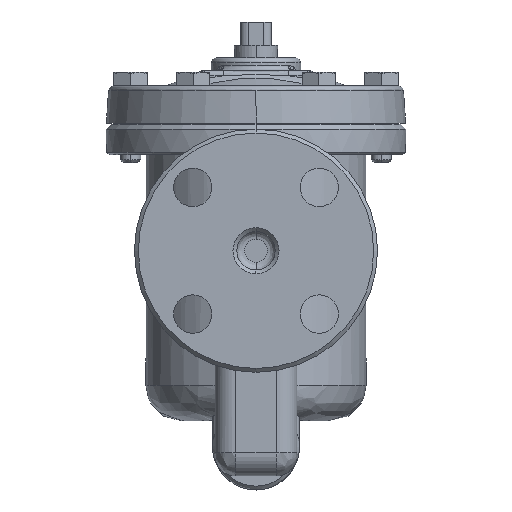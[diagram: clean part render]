
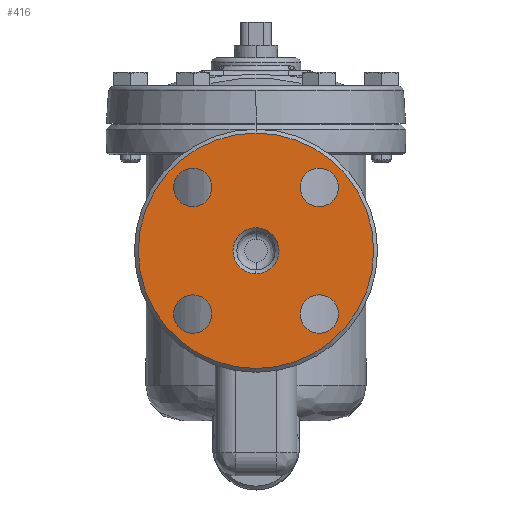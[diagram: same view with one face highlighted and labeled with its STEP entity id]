
A CAD part, left-side view. The second image highlights one B-rep face of the part: STEP entity #416.
In plain terms, the highlighted planar face has unit normal (-1, 0, 0).
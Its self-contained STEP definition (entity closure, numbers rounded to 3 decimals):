
#416=ADVANCED_FACE('',(#2297,#2298,#2299,#2300,#2301,#2302),#2296,.F.);
#2296=PLANE('',#5579);
#2297=FACE_OUTER_BOUND('',#5580,.T.);
#2298=FACE_BOUND('',#5581,.T.);
#2299=FACE_BOUND('',#5582,.T.);
#2300=FACE_BOUND('',#5583,.T.);
#2301=FACE_BOUND('',#5584,.T.);
#2302=FACE_BOUND('',#5585,.T.);
#5576=CARTESIAN_POINT('',(-87.5,-89.674,56.));
#5577=DIRECTION('',(1.,0.,0.));
#5578=DIRECTION('',(0.,0.,-1.));
#5579=AXIS2_PLACEMENT_3D('',#5576,#5577,#5578);
#5580=EDGE_LOOP('',(#7312,#7313));
#5581=EDGE_LOOP('',(#7314,#7315));
#5582=EDGE_LOOP('',(#7316,#7317));
#5583=EDGE_LOOP('',(#7318,#7319));
#5584=EDGE_LOOP('',(#7320,#7321));
#5585=EDGE_LOOP('',(#7322,#7323));
#7312=ORIENTED_EDGE('',*,*,#8249,.T.);
#7313=ORIENTED_EDGE('',*,*,#8250,.T.);
#7314=ORIENTED_EDGE('',*,*,#8251,.F.);
#7315=ORIENTED_EDGE('',*,*,#8252,.F.);
#7316=ORIENTED_EDGE('',*,*,#8253,.F.);
#7317=ORIENTED_EDGE('',*,*,#8254,.F.);
#7318=ORIENTED_EDGE('',*,*,#8255,.F.);
#7319=ORIENTED_EDGE('',*,*,#8256,.F.);
#7320=ORIENTED_EDGE('',*,*,#8257,.F.);
#7321=ORIENTED_EDGE('',*,*,#8258,.F.);
#7322=ORIENTED_EDGE('',*,*,#8259,.F.);
#7323=ORIENTED_EDGE('',*,*,#8260,.F.);
#8249=EDGE_CURVE('',#11641,#11642,#11643,.T.);
#8250=EDGE_CURVE('',#11642,#11641,#11649,.T.);
#8251=EDGE_CURVE('',#11655,#11656,#11657,.T.);
#8252=EDGE_CURVE('',#11656,#11655,#11663,.T.);
#8253=EDGE_CURVE('',#11669,#11670,#11671,.T.);
#8254=EDGE_CURVE('',#11670,#11669,#11677,.T.);
#8255=EDGE_CURVE('',#11683,#11684,#11685,.T.);
#8256=EDGE_CURVE('',#11684,#11683,#11691,.T.);
#8257=EDGE_CURVE('',#11697,#11698,#11699,.T.);
#8258=EDGE_CURVE('',#11698,#11697,#11705,.T.);
#8259=EDGE_CURVE('',#11711,#11712,#11713,.T.);
#8260=EDGE_CURVE('',#11712,#11711,#11719,.T.);
#11641=VERTEX_POINT('',#15541);
#11642=VERTEX_POINT('',#15542);
#11643=CIRCLE('',#15546,46.);
#11649=CIRCLE('',#15550,46.);
#11655=VERTEX_POINT('',#15551);
#11656=VERTEX_POINT('',#15552);
#11657=CIRCLE('',#15556,7.5);
#11663=CIRCLE('',#15560,7.5);
#11669=VERTEX_POINT('',#15561);
#11670=VERTEX_POINT('',#15562);
#11671=CIRCLE('',#15566,7.5);
#11677=CIRCLE('',#15570,7.5);
#11683=VERTEX_POINT('',#15571);
#11684=VERTEX_POINT('',#15572);
#11685=CIRCLE('',#15576,7.5);
#11691=CIRCLE('',#15580,7.5);
#11697=VERTEX_POINT('',#15581);
#11698=VERTEX_POINT('',#15582);
#11699=CIRCLE('',#15586,7.5);
#11705=CIRCLE('',#15590,7.5);
#11711=VERTEX_POINT('',#15591);
#11712=VERTEX_POINT('',#15592);
#11713=CIRCLE('',#15596,9.);
#11719=CIRCLE('',#15600,9.);
#15541=CARTESIAN_POINT('',(-87.5,0.,46.));
#15542=CARTESIAN_POINT('',(-87.5,0.,-46.));
#15543=CARTESIAN_POINT('',(-87.5,0.,0.));
#15544=DIRECTION('',(-1.,0.,0.));
#15545=DIRECTION('',(0.,0.,1.));
#15546=AXIS2_PLACEMENT_3D('',#15543,#15544,#15545);
#15547=CARTESIAN_POINT('',(-87.5,0.,0.));
#15548=DIRECTION('',(-1.,0.,0.));
#15549=DIRECTION('',(0.,0.,1.));
#15550=AXIS2_PLACEMENT_3D('',#15547,#15548,#15549);
#15551=CARTESIAN_POINT('',(-87.5,24.749,32.249));
#15552=CARTESIAN_POINT('',(-87.5,24.749,17.249));
#15553=CARTESIAN_POINT('',(-87.5,24.749,24.749));
#15554=DIRECTION('',(-1.,0.,0.));
#15555=DIRECTION('',(0.,0.,-1.));
#15556=AXIS2_PLACEMENT_3D('',#15553,#15554,#15555);
#15557=CARTESIAN_POINT('',(-87.5,24.749,24.749));
#15558=DIRECTION('',(-1.,0.,0.));
#15559=DIRECTION('',(0.,0.,-1.));
#15560=AXIS2_PLACEMENT_3D('',#15557,#15558,#15559);
#15561=CARTESIAN_POINT('',(-87.5,24.749,-17.249));
#15562=CARTESIAN_POINT('',(-87.5,24.749,-32.249));
#15563=CARTESIAN_POINT('',(-87.5,24.749,-24.749));
#15564=DIRECTION('',(-1.,0.,0.));
#15565=DIRECTION('',(0.,0.,-1.));
#15566=AXIS2_PLACEMENT_3D('',#15563,#15564,#15565);
#15567=CARTESIAN_POINT('',(-87.5,24.749,-24.749));
#15568=DIRECTION('',(-1.,0.,0.));
#15569=DIRECTION('',(0.,0.,-1.));
#15570=AXIS2_PLACEMENT_3D('',#15567,#15568,#15569);
#15571=CARTESIAN_POINT('',(-87.5,-24.749,-17.249));
#15572=CARTESIAN_POINT('',(-87.5,-24.749,-32.249));
#15573=CARTESIAN_POINT('',(-87.5,-24.749,-24.749));
#15574=DIRECTION('',(-1.,0.,0.));
#15575=DIRECTION('',(0.,0.,-1.));
#15576=AXIS2_PLACEMENT_3D('',#15573,#15574,#15575);
#15577=CARTESIAN_POINT('',(-87.5,-24.749,-24.749));
#15578=DIRECTION('',(-1.,0.,0.));
#15579=DIRECTION('',(0.,0.,-1.));
#15580=AXIS2_PLACEMENT_3D('',#15577,#15578,#15579);
#15581=CARTESIAN_POINT('',(-87.5,-24.749,32.249));
#15582=CARTESIAN_POINT('',(-87.5,-24.749,17.249));
#15583=CARTESIAN_POINT('',(-87.5,-24.749,24.749));
#15584=DIRECTION('',(-1.,0.,0.));
#15585=DIRECTION('',(0.,0.,-1.));
#15586=AXIS2_PLACEMENT_3D('',#15583,#15584,#15585);
#15587=CARTESIAN_POINT('',(-87.5,-24.749,24.749));
#15588=DIRECTION('',(-1.,0.,0.));
#15589=DIRECTION('',(0.,0.,-1.));
#15590=AXIS2_PLACEMENT_3D('',#15587,#15588,#15589);
#15591=CARTESIAN_POINT('',(-87.5,0.,-9.));
#15592=CARTESIAN_POINT('',(-87.5,0.,9.));
#15593=CARTESIAN_POINT('',(-87.5,0.,0.));
#15594=DIRECTION('',(-1.,0.,0.));
#15595=DIRECTION('',(0.,0.,1.));
#15596=AXIS2_PLACEMENT_3D('',#15593,#15594,#15595);
#15597=CARTESIAN_POINT('',(-87.5,0.,0.));
#15598=DIRECTION('',(-1.,0.,0.));
#15599=DIRECTION('',(0.,0.,1.));
#15600=AXIS2_PLACEMENT_3D('',#15597,#15598,#15599);
